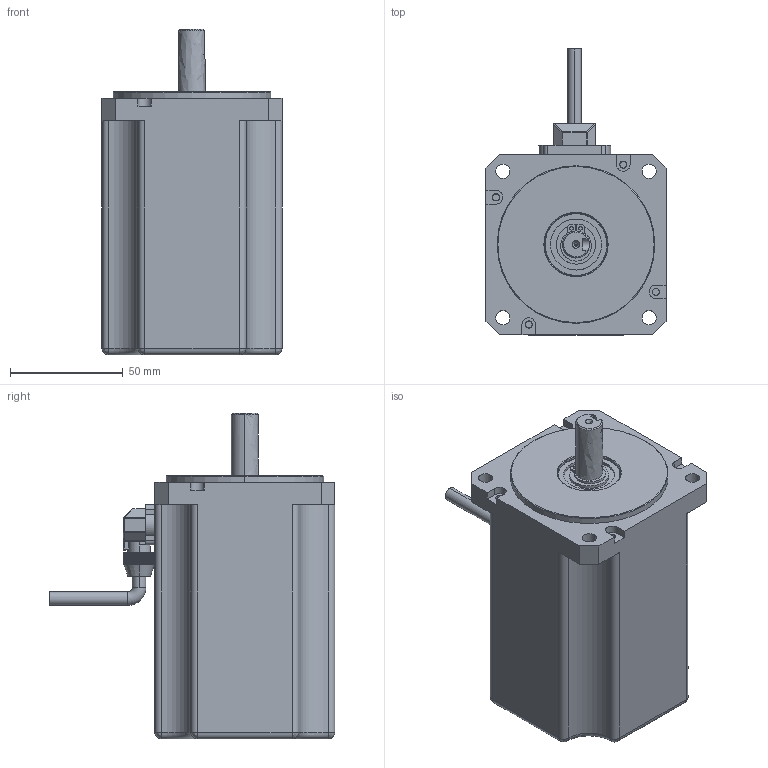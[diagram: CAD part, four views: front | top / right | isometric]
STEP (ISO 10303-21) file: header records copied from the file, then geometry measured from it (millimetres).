
FILE_DESCRIPTION (( 'STEP AP203' ), '1' );
FILE_NAME ('NCA30096-X4.STEP', '2018-07-18T08:26:25', ( 'xt256.com' ), ( 'xt256.com' ), 'SwSTEP 2.0', 'SolidWorks 2016', '' );
FILE_SCHEMA (( 'CONFIG_CONTROL_DESIGN' ));
Length unit declared in the file: millimetre
Products named in the file (2): NCA30096-T-prt0; NCA30096-X4
Assembly tree (1 placements, depth 2):
  NCA30096-X4
    NCA30096-T-prt0
Bounding box: 80 x 126.97 x 144.8 mm (x, y, z)
Surface area: 53571.4 mm2 (no closed solid volume)
Topology: 0 solids, 2 shells, 612 faces, 2036 edges, 1424 vertices
Faces by surface type: cylinder 416, plane 117, bspline 51, torus 10, cone 9, sphere 9
Entity records: 29283 total; most frequent: CARTESIAN_POINT 13519, ORIENTED_EDGE 4028, DIRECTION 2258, EDGE_CURVE 2016, VERTEX_POINT 1424, B_SPLINE_CURVE_WITH_KNOTS 1018, AXIS2_PLACEMENT_3D 799, VECTOR 660
